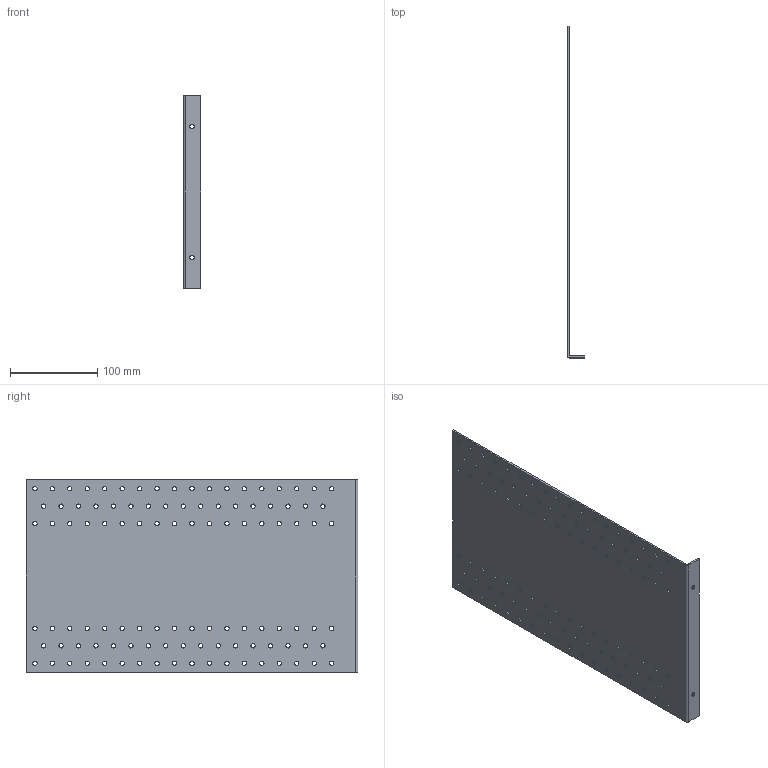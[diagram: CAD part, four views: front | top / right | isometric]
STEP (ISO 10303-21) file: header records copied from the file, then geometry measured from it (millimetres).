
FILE_DESCRIPTION (( 'STEP AP203' ), '1' );
FILE_NAME ('238.STEP', '2020-04-17T12:55:06', ( '' ), ( '' ), 'SwSTEP 2.0', 'SolidWorks 2013', '' );
FILE_SCHEMA (( 'CONFIG_CONTROL_DESIGN' ));
Length unit declared in the file: millimetre
Products named in the file (1): 238
Bounding box: 20 x 380 x 220 mm (x, y, z)
Volume: 170551.8 mm3; surface area: 176413.7 mm2
Topology: 1 solids, 1 shells, 230 faces, 676 edges, 448 vertices
Faces by surface type: cylinder 218, plane 12
Entity records: 8421 total; most frequent: DIRECTION 1574, CARTESIAN_POINT 1355, ORIENTED_EDGE 1352, EDGE_CURVE 676, AXIS2_PLACEMENT_3D 667, VERTEX_POINT 448, EDGE_LOOP 446, CIRCLE 436
